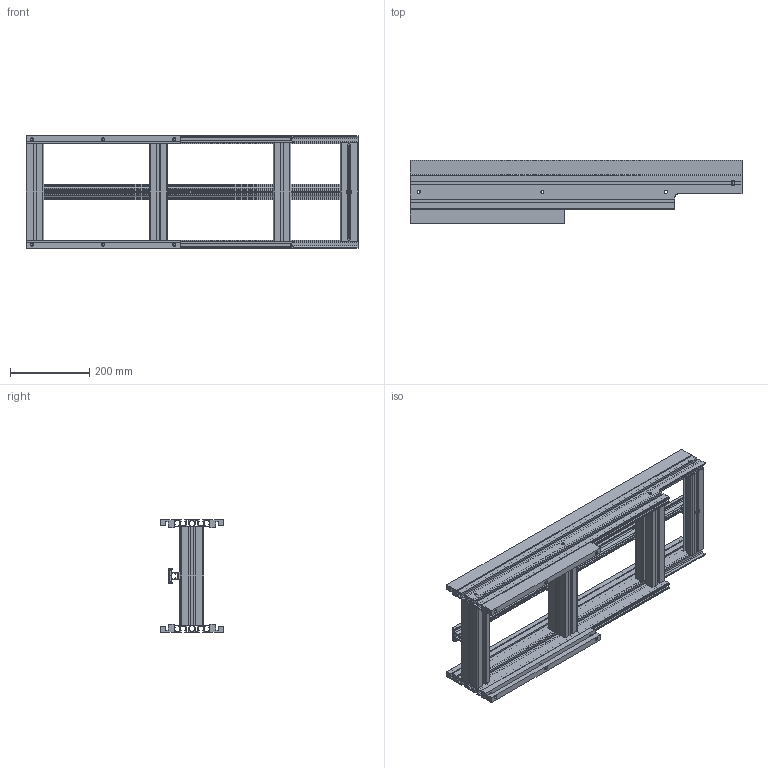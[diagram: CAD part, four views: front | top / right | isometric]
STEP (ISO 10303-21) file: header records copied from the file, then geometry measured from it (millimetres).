
FILE_DESCRIPTION (( 'STEP AP203' ), '1' );
FILE_NAME ('3000.250.103.STEP', '2018-02-28T10:54:40', ( 'Localadmin' ), ( 'Microsoft' ), 'SwSTEP 2.0', 'SolidWorks 2016', '' );
FILE_SCHEMA (( 'CONFIG_CONTROL_DESIGN' ));
Length unit declared in the file: millimetre
Products named in the file (1): 3000.250.103
Bounding box: 840 x 160 x 285 mm (x, y, z)
Volume: 3851739.7 mm3; surface area: 2256383.2 mm2
Topology: 17 solids, 17 shells, 1035 faces, 2969 edges, 1978 vertices
Faces by surface type: plane 618, cylinder 407, cone 10
Entity records: 34710 total; most frequent: CARTESIAN_POINT 6490, ORIENTED_EDGE 5938, DIRECTION 5821, EDGE_CURVE 2969, VECTOR 2099, LINE 2099, VERTEX_POINT 1978, AXIS2_PLACEMENT_3D 1861
